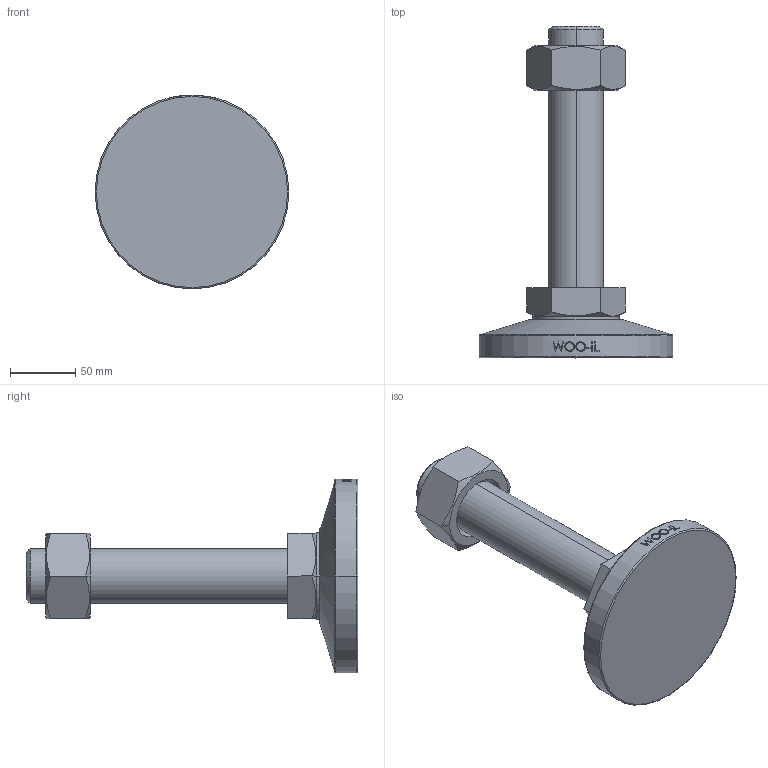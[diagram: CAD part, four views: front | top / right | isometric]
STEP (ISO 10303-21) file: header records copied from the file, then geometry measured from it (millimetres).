
FILE_DESCRIPTION (( 'STEP AP214' ), '1' );
FILE_NAME ('MFB148-M42-200.step', '2022-06-27T08:35:07', ( '' ), ( '' ), 'SwSTEP 2.0', 'SolidWorks 2019', '' );
FILE_SCHEMA (( 'AUTOMOTIVE_DESIGN' ));
Length unit declared in the file: millimetre
Products named in the file (1): MFB148-M42-200
Bounding box: 148 x 253.5 x 148 mm (x, y, z)
Volume: 854530.2 mm3; surface area: 97251.4 mm2
Topology: 3 solids, 3 shells, 97 faces, 225 edges, 144 vertices
Faces by surface type: plane 47, cylinder 16, bspline 16, cone 14, torus 4
Entity records: 4311 total; most frequent: CARTESIAN_POINT 2181, ORIENTED_EDGE 450, DIRECTION 385, EDGE_CURVE 225, VERTEX_POINT 144, AXIS2_PLACEMENT_3D 144, EDGE_LOOP 109, FACE_OUTER_BOUND 97
